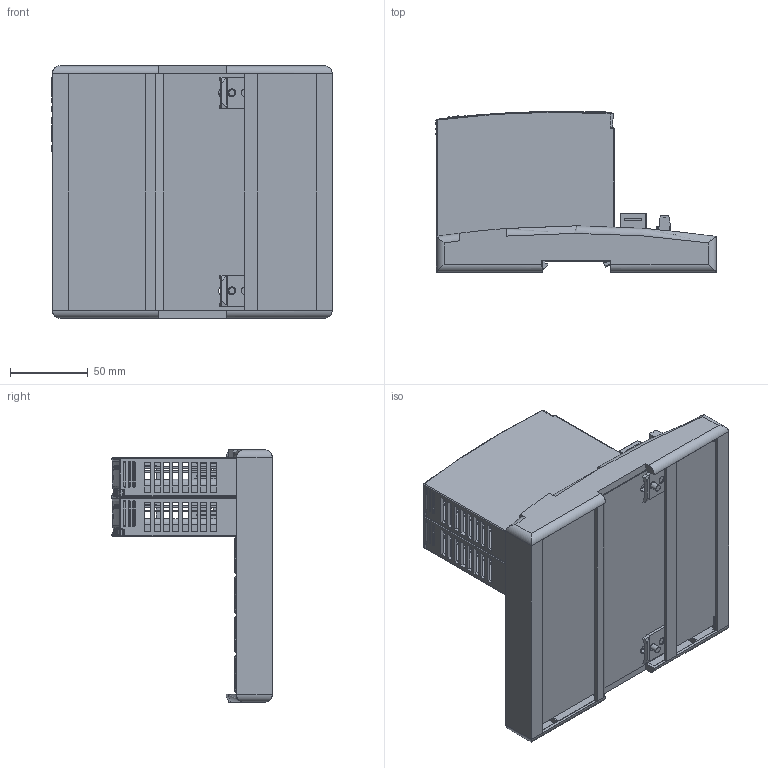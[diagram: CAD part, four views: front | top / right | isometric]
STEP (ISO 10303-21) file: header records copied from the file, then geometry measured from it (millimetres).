
FILE_DESCRIPTION((''),'2;1');
FILE_NAME('2550_4W_BLANK_IGESFILE','2012-04-10T',('chrisloe'),(''),'PRO/ENGINEER BY PARAMETRIC TECHNOLOGY CORPORATION, 2010180','PRO/ENGINEER BY PARAMETRIC TECHNOLOGY CORPORATION, 2010180','');
FILE_SCHEMA(('CONFIG_CONTROL_DESIGN'));
Products named in the file (1): 2550_4W_BLANK_IGESFILE
Bounding box: 180.4 x 103.39 x 162.4 mm (x, y, z)
Volume: 300246.9 mm3; surface area: 272789.9 mm2
Topology: 1 solids, 15 shells, 4827 faces, 13606 edges, 8728 vertices
Faces by surface type: plane 3304, cylinder 1097, cone 170, bspline 118, torus 92, sphere 46
Entity records: 165099 total; most frequent: CARTESIAN_POINT 41859, ORIENTED_EDGE 27188, DIRECTION 23674, EDGE_CURVE 13598, VERTEX_POINT 8728, VECTOR 8552, LINE 8552, AXIS2_PLACEMENT_3D 7561
